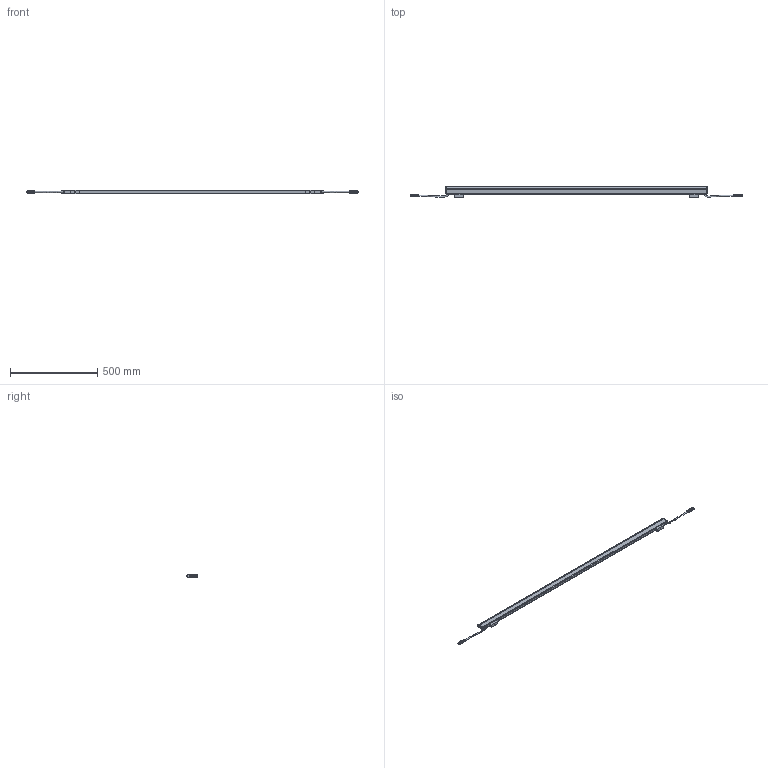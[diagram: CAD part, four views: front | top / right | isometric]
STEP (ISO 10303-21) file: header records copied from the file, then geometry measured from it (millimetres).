
FILE_DESCRIPTION (( 'STEP AP214' ), '1' );
FILE_NAME ('DiGi Linear V-Series L1500 Round.STEP', '2025-07-22T11:42:48', ( '' ), ( '' ), 'SwSTEP 2.0', 'SolidWorks 2025', '' );
FILE_SCHEMA (( 'AUTOMOTIVE_DESIGN' ));
Length unit declared in the file: millimetre
Products named in the file (7): M12 3p Female; DiGi Linear V-serie - Cabling_L1500; DiGi Linear V-Series L1500 Round; M12 3p Male; DiGi Linear V-serie - Body_L1500 Round; Counter sunk screw torx_M2x6; DiGi Linear V-serie - Clip
Assembly tree (10 placements, depth 2):
  DiGi Linear V-Series L1500 Round
    DiGi Linear V-serie - Body_L1500 Round
    DiGi Linear V-serie - Clip  x2
    M12 3p Male
    M12 3p Female
    DiGi Linear V-serie - Cabling_L1500
    Counter sunk screw torx_M2x6  x4
Bounding box: 1907.4 x 59.99 x 18.3 mm (x, y, z)
Volume: 1127795.5 mm3; surface area: 224428.2 mm2
Topology: 13 solids, 13 shells, 1274 faces, 3201 edges, 2000 vertices
Faces by surface type: plane 490, cylinder 349, bspline 184, torus 163, cone 80, sphere 8
Full cylindrical faces by diameter (mm): 2 x4, 2.4 x4, 3 x4, 6.5 x6, 9.7 x1, 10 x2, 10.8 x1, 12.3 x1, 14.3 x2
Entity records: 53678 total; most frequent: CARTESIAN_POINT 17164, ORIENTED_EDGE 5778, DIRECTION 4771, EDGE_CURVE 2889, VERTEX_POINT 1816, AXIS2_PLACEMENT_3D 1797, EDGE_LOOP 1269, FACE_OUTER_BOUND 1198
